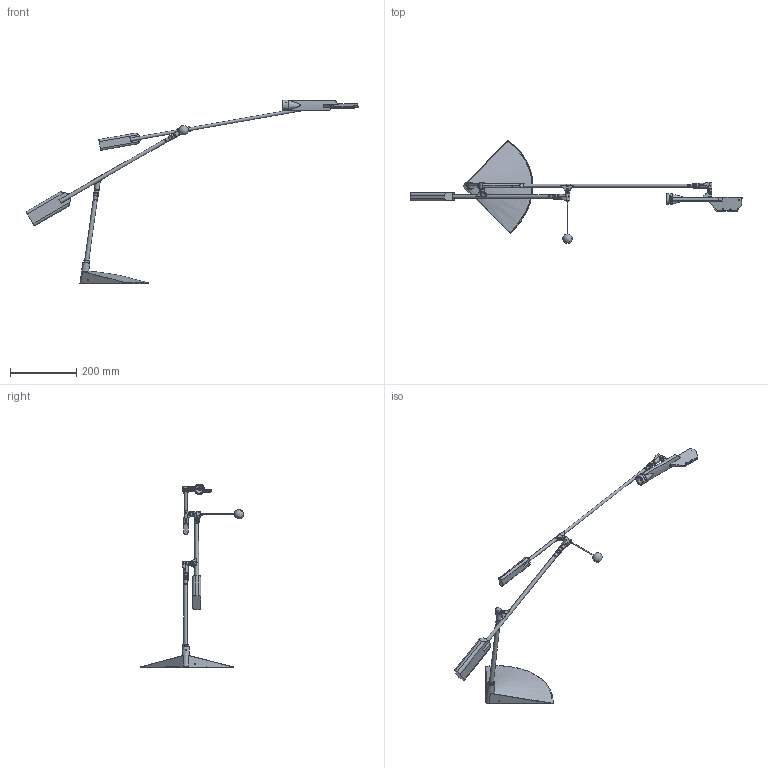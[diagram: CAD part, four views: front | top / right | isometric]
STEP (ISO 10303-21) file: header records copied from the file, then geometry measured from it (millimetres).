
FILE_DESCRIPTION(/* description */ ('Unknown'),/* implementation_level */ '2;1');
FILE_NAME(/* name */ '9586',/* time_stamp */ '2023-01-27T15:54:22+01:00',/* author */ ('Unknown'),/* organization */ ('Unknown'),/* preprocessor_version */ 'ST-DEVELOPER v18.1',/* originating_system */ 'Solid Edge',/* authorisation */ 'Unknown');
FILE_SCHEMA (('AUTOMOTIVE_DESIGN {1 0 10303 214 3 1 1}'));
Products named in the file (43): LL19047M122; LL19047M121_oa_0; 150000165980; 151001694999; 063000288352; LL19047M120_oa_1; 155000712994; 155000716994; 155000715994; 067000118352; 155000710994; 155000717995; 067000119352; LL19047M088; 155000707994; 155000714994; 155000699996; 001000101000; 001000103000; LL19047M096_oa_2; 155000709994; 155000720000; 155000705995; LL19047M089_oa_3; 225000067013; 155000713994; 155000711994; 155000700996; 155000708994; LL19047M082_oa_4; 061000398352; 155000701994; 015000220000; 008000271352; 015000219000; 008000272352; 061000387356; 155000704994; 061000386352; 061000399365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
Assembly tree (57 placements, depth 4):
  LL19047M122
    LL19047M121_oa_0
      150000165980
      151001694999
      063000288352
    LL19047M120_oa_1
      155000712994
      155000716994
      155000715994
      067000118352
      155000710994
      155000717995  x2
      067000119352  x2
    LL19047M088
      155000712994
      155000707994
      155000714994
      155000699996
      001000101000
      001000103000
    LL19047M096_oa_2
      155000717995  x2
      155000709994
      067000119352  x2
      155000720000
      155000705995
    LL19047M089_oa_3
      225000067013
      155000710994
      155000713994
      155000711994
      067000119352  x2
      155000717995  x2
      155000700996
      155000708994
      001000101000
      001000103000
    LL19047M082_oa_4
      061000398352
      155000701994
      015000220000
        008000271352
        015000219000
      008000272352
      061000387356
      155000704994
      061000386352
      061000399365
      008000315352
      210000027012  x2
      155000706994
Bounding box: 1000.86 x 311.27 x 554.45 mm (x, y, z)
Volume: 871647.3 mm3; surface area: 382676.3 mm2
Topology: 50 solids, 50 shells, 2207 faces, 5673 edges, 3741 vertices
Faces by surface type: plane 1364, cylinder 563, bspline 176, cone 70, torus 27, sphere 7
Full cylindrical faces by diameter (mm): 0.5 x4, 0.9 x1, 1 x12, 1.3 x18, 1.567 x2, 2 x5, 2.2 x1, 2.459 x14, 2.5 x6, 2.608 x2, 3 x9, 3.2 x8, 3.242 x1, 3.25 x2, 3.5 x26, 4 x3, 5 x1, 6 x9, 6.1 x4, 6.917 x1, 7 x4, 7.5 x10, 8 x3, 8.5 x1, 8.573 x1, 8.917 x9, 9 x3, 9.5 x1, 10 x21, 11 x1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
Entity records: 76251 total; most frequent: CARTESIAN_POINT 22374, ORIENTED_EDGE 9548, DIRECTION 8792, EDGE_CURVE 4774, VERTEX_POINT 3296, LINE 3182, VECTOR 3182, AXIS2_PLACEMENT_3D 2805
